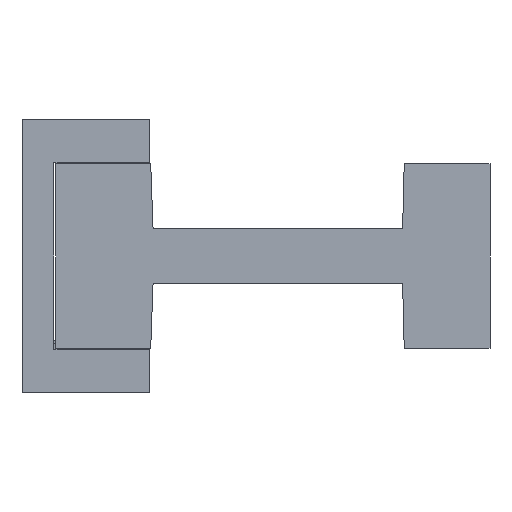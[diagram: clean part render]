
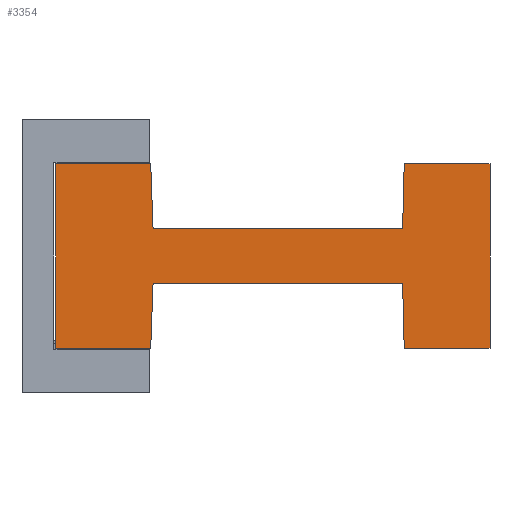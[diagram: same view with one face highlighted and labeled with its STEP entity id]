
A CAD part, left-side view. The second image highlights one B-rep face of the part: STEP entity #3354.
In plain terms, the highlighted planar face has unit normal (-1, 0, 0).
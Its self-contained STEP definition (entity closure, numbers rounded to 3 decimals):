
#28 = VERTEX_POINT ( 'NONE', #52 ) ;
#52 = CARTESIAN_POINT ( 'NONE',  ( 118.513, -4.3, 232.26 ) ) ;
#200 = CARTESIAN_POINT ( 'NONE',  ( 118.513, -60., 255.96 ) ) ;
#288 = VERTEX_POINT ( 'NONE', #568 ) ;
#324 = VECTOR ( 'NONE', #3159, 1000. ) ;
#346 = ORIENTED_EDGE ( 'NONE', *, *, #6264, .T. ) ;
#397 = ORIENTED_EDGE ( 'NONE', *, *, #2885, .T. ) ;
#461 = VERTEX_POINT ( 'NONE', #2539 ) ;
#476 = DIRECTION ( 'NONE',  ( 0., 1., 0. ) ) ;
#496 = DIRECTION ( 'NONE',  ( 0., 1., 0. ) ) ;
#503 = ORIENTED_EDGE ( 'NONE', *, *, #2711, .T. ) ;
#509 = DIRECTION ( 'NONE',  ( 0., 0.036, -0.999 ) ) ;
#523 = LINE ( 'NONE', #4852, #4197 ) ;
#568 = CARTESIAN_POINT ( 'NONE',  ( 118.513, -48.8, 240.61 ) ) ;
#595 = EDGE_CURVE ( 'NONE', #6341, #5808, #2183, .T. ) ;
#862 = CARTESIAN_POINT ( 'NONE',  ( 118.513, -16.8, 240.61 ) ) ;
#983 = LINE ( 'NONE', #2609, #324 ) ;
#999 = FACE_OUTER_BOUND ( 'NONE', #1852, .T. ) ;
#1000 = CARTESIAN_POINT ( 'NONE',  ( 118.513, -4.3, 255.96 ) ) ;
#1038 = CARTESIAN_POINT ( 'NONE',  ( 118.513, -49., 232.26 ) ) ;
#1150 = ORIENTED_EDGE ( 'NONE', *, *, #595, .F. ) ;
#1151 = VERTEX_POINT ( 'NONE', #6151 ) ;
#1256 = AXIS2_PLACEMENT_3D ( 'NONE', #5603, #1661, #4445 ) ;
#1266 = CARTESIAN_POINT ( 'NONE',  ( 118.513, -16.5, 255.96 ) ) ;
#1326 = EDGE_CURVE ( 'NONE', #6171, #28, #5904, .T. ) ;
#1397 = ORIENTED_EDGE ( 'NONE', *, *, #3024, .F. ) ;
#1398 = VERTEX_POINT ( 'NONE', #1038 ) ;
#1421 = CARTESIAN_POINT ( 'NONE',  ( 118.513, -60., 244.11 ) ) ;
#1453 = LINE ( 'NONE', #1421, #3035 ) ;
#1488 = PLANE ( 'NONE',  #1256 ) ;
#1661 = DIRECTION ( 'NONE',  ( -1., 0., 0. ) ) ;
#1852 = EDGE_LOOP ( 'NONE', ( #2277, #1397, #1150, #5991, #3600, #6620, #346, #6832, #397, #3542, #3187, #503 ) ) ;
#2030 = VECTOR ( 'NONE', #6772, 1000. ) ;
#2060 = DIRECTION ( 'NONE',  ( 0., 1., 0. ) ) ;
#2183 = LINE ( 'NONE', #5962, #6109 ) ;
#2193 = DIRECTION ( 'NONE',  ( 0., 1., 0. ) ) ;
#2236 = CARTESIAN_POINT ( 'NONE',  ( 118.513, -16.8, 247.61 ) ) ;
#2277 = ORIENTED_EDGE ( 'NONE', *, *, #1326, .T. ) ;
#2380 = CARTESIAN_POINT ( 'NONE',  ( 118.513, -48.8, 247.61 ) ) ;
#2539 = CARTESIAN_POINT ( 'NONE',  ( 118.513, -16.8, 247.61 ) ) ;
#2609 = CARTESIAN_POINT ( 'NONE',  ( 118.513, -60., 255.96 ) ) ;
#2711 = EDGE_CURVE ( 'NONE', #4386, #6171, #3738, .T. ) ;
#2735 = DIRECTION ( 'NONE',  ( 0., 0.036, 0.999 ) ) ;
#2866 = VERTEX_POINT ( 'NONE', #200 ) ;
#2885 = EDGE_CURVE ( 'NONE', #1151, #5635, #4012, .T. ) ;
#3003 = CARTESIAN_POINT ( 'NONE',  ( 118.513, -16.8, 247.61 ) ) ;
#3024 = EDGE_CURVE ( 'NONE', #5808, #28, #5944, .T. ) ;
#3035 = VECTOR ( 'NONE', #3654, 1000. ) ;
#3144 = VECTOR ( 'NONE', #6957, 1000. ) ;
#3159 = DIRECTION ( 'NONE',  ( 0., 1., 0. ) ) ;
#3187 = ORIENTED_EDGE ( 'NONE', *, *, #5414, .T. ) ;
#3287 = CARTESIAN_POINT ( 'NONE',  ( 118.513, -16.8, 240.61 ) ) ;
#3354 = ADVANCED_FACE ( 'NONE', ( #999 ), #1488, .T. ) ;
#3542 = ORIENTED_EDGE ( 'NONE', *, *, #5009, .T. ) ;
#3590 = CARTESIAN_POINT ( 'NONE',  ( 118.513, -48.8, 240.61 ) ) ;
#3600 = ORIENTED_EDGE ( 'NONE', *, *, #5976, .F. ) ;
#3654 = DIRECTION ( 'NONE',  ( 0., 0., 1. ) ) ;
#3695 = CARTESIAN_POINT ( 'NONE',  ( 118.513, -4.3, 232.26 ) ) ;
#3738 = LINE ( 'NONE', #6027, #5695 ) ;
#3992 = CARTESIAN_POINT ( 'NONE',  ( 118.513, -48.8, 247.61 ) ) ;
#4012 = LINE ( 'NONE', #2380, #2030 ) ;
#4160 = CARTESIAN_POINT ( 'NONE',  ( 118.513, -60., 232.26 ) ) ;
#4197 = VECTOR ( 'NONE', #2193, 1000. ) ;
#4386 = VERTEX_POINT ( 'NONE', #1266 ) ;
#4445 = DIRECTION ( 'NONE',  ( 0., 0., 1. ) ) ;
#4852 = CARTESIAN_POINT ( 'NONE',  ( 118.513, -60., 232.26 ) ) ;
#5000 = DIRECTION ( 'NONE',  ( 0., 0., -1. ) ) ;
#5009 = EDGE_CURVE ( 'NONE', #5635, #461, #5714, .T. ) ;
#5119 = VECTOR ( 'NONE', #496, 1000. ) ;
#5163 = VECTOR ( 'NONE', #2735, 1000. ) ;
#5307 = EDGE_CURVE ( 'NONE', #288, #6341, #5767, .T. ) ;
#5365 = LINE ( 'NONE', #2236, #5163 ) ;
#5414 = EDGE_CURVE ( 'NONE', #461, #4386, #5365, .T. ) ;
#5510 = VECTOR ( 'NONE', #6827, 1000. ) ;
#5524 = CARTESIAN_POINT ( 'NONE',  ( 118.513, -16.5, 232.26 ) ) ;
#5603 = CARTESIAN_POINT ( 'NONE',  ( 118.513, -60., 244.11 ) ) ;
#5635 = VERTEX_POINT ( 'NONE', #3992 ) ;
#5695 = VECTOR ( 'NONE', #476, 1000. ) ;
#5714 = LINE ( 'NONE', #3003, #5510 ) ;
#5767 = LINE ( 'NONE', #862, #5988 ) ;
#5773 = EDGE_CURVE ( 'NONE', #2866, #1151, #983, .T. ) ;
#5808 = VERTEX_POINT ( 'NONE', #5524 ) ;
#5904 = LINE ( 'NONE', #1000, #6464 ) ;
#5944 = LINE ( 'NONE', #3695, #5119 ) ;
#5962 = CARTESIAN_POINT ( 'NONE',  ( 118.513, -16.8, 240.61 ) ) ;
#5976 = EDGE_CURVE ( 'NONE', #1398, #288, #6446, .T. ) ;
#5988 = VECTOR ( 'NONE', #2060, 1000. ) ;
#5991 = ORIENTED_EDGE ( 'NONE', *, *, #5307, .F. ) ;
#6027 = CARTESIAN_POINT ( 'NONE',  ( 118.513, -4.3, 255.96 ) ) ;
#6109 = VECTOR ( 'NONE', #509, 1000. ) ;
#6120 = CARTESIAN_POINT ( 'NONE',  ( 118.513, -4.3, 255.96 ) ) ;
#6151 = CARTESIAN_POINT ( 'NONE',  ( 118.513, -49., 255.96 ) ) ;
#6171 = VERTEX_POINT ( 'NONE', #6120 ) ;
#6264 = EDGE_CURVE ( 'NONE', #6951, #2866, #1453, .T. ) ;
#6341 = VERTEX_POINT ( 'NONE', #3287 ) ;
#6360 = EDGE_CURVE ( 'NONE', #6951, #1398, #523, .T. ) ;
#6446 = LINE ( 'NONE', #3590, #3144 ) ;
#6464 = VECTOR ( 'NONE', #5000, 1000. ) ;
#6620 = ORIENTED_EDGE ( 'NONE', *, *, #6360, .F. ) ;
#6772 = DIRECTION ( 'NONE',  ( 0., 0.024, -1. ) ) ;
#6827 = DIRECTION ( 'NONE',  ( 0., 1., 0. ) ) ;
#6832 = ORIENTED_EDGE ( 'NONE', *, *, #5773, .T. ) ;
#6951 = VERTEX_POINT ( 'NONE', #4160 ) ;
#6957 = DIRECTION ( 'NONE',  ( 0., 0.024, 1. ) ) ;
